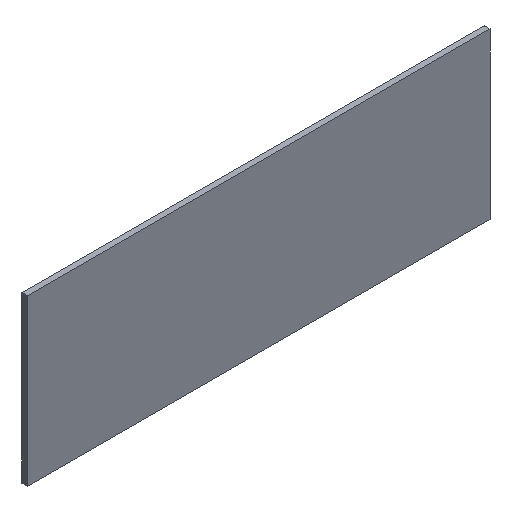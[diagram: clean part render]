
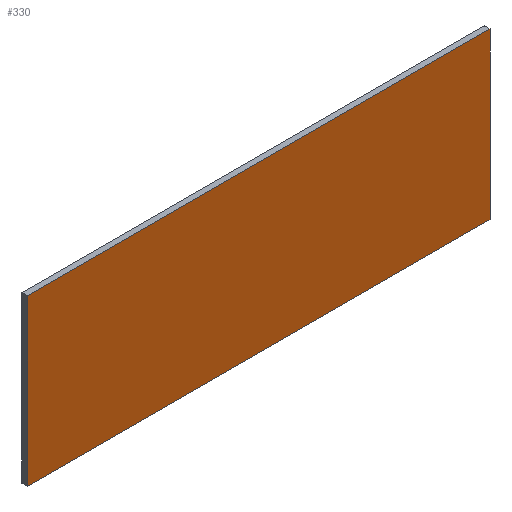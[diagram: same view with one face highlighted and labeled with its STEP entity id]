
A CAD part, isometric view. The second image highlights one B-rep face of the part: STEP entity #330.
In plain terms, the highlighted planar face has unit normal (0, -1, 0).
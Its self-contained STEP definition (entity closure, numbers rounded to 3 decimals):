
#43 = PLANE('',#44);
#44 = AXIS2_PLACEMENT_3D('',#45,#46,#47);
#45 = CARTESIAN_POINT('',(-28.,12.5,-10.));
#46 = DIRECTION('',(1.,0.,0.));
#47 = DIRECTION('',(0.,0.,1.));
#69 = PLANE('',#70);
#70 = AXIS2_PLACEMENT_3D('',#71,#72,#73);
#71 = CARTESIAN_POINT('',(-28.,12.5,10.));
#72 = DIRECTION('',(0.,0.,1.));
#73 = DIRECTION('',(1.,0.,0.));
#95 = PLANE('',#96);
#96 = AXIS2_PLACEMENT_3D('',#97,#98,#99);
#97 = CARTESIAN_POINT('',(28.,12.5,-10.));
#98 = DIRECTION('',(1.,0.,0.));
#99 = DIRECTION('',(0.,0.,1.));
#119 = PLANE('',#120);
#120 = AXIS2_PLACEMENT_3D('',#121,#122,#123);
#121 = CARTESIAN_POINT('',(-28.,12.5,-10.));
#122 = DIRECTION('',(0.,0.,1.));
#123 = DIRECTION('',(1.,0.,0.));
#134 = VERTEX_POINT('',#135);
#135 = CARTESIAN_POINT('',(-28.,12.5,10.));
#156 = EDGE_CURVE('',#157,#134,#159,.T.);
#157 = VERTEX_POINT('',#158);
#158 = CARTESIAN_POINT('',(-28.,12.5,-10.));
#159 = SURFACE_CURVE('',#160,(#164,#171),.PCURVE_S1.);
#160 = LINE('',#161,#162);
#161 = CARTESIAN_POINT('',(-28.,12.5,-10.));
#162 = VECTOR('',#163,1.);
#163 = DIRECTION('',(0.,0.,1.));
#164 = PCURVE('',#43,#165);
#165 = DEFINITIONAL_REPRESENTATION('',(#166),#170);
#166 = LINE('',#167,#168);
#167 = CARTESIAN_POINT('',(0.,0.));
#168 = VECTOR('',#169,1.);
#169 = DIRECTION('',(1.,0.));
#170 = ( GEOMETRIC_REPRESENTATION_CONTEXT(2) 
PARAMETRIC_REPRESENTATION_CONTEXT() REPRESENTATION_CONTEXT('2D SPACE',''
  ) );
#171 = PCURVE('',#172,#177);
#172 = PLANE('',#173);
#173 = AXIS2_PLACEMENT_3D('',#174,#175,#176);
#174 = CARTESIAN_POINT('',(-28.,12.5,-10.));
#175 = DIRECTION('',(0.,1.,0.));
#176 = DIRECTION('',(0.,0.,1.));
#177 = DEFINITIONAL_REPRESENTATION('',(#178),#182);
#178 = LINE('',#179,#180);
#179 = CARTESIAN_POINT('',(0.,0.));
#180 = VECTOR('',#181,1.);
#181 = DIRECTION('',(1.,0.));
#182 = ( GEOMETRIC_REPRESENTATION_CONTEXT(2) 
PARAMETRIC_REPRESENTATION_CONTEXT() REPRESENTATION_CONTEXT('2D SPACE',''
  ) );
#210 = EDGE_CURVE('',#157,#211,#213,.T.);
#211 = VERTEX_POINT('',#212);
#212 = CARTESIAN_POINT('',(28.,12.5,-10.));
#213 = SURFACE_CURVE('',#214,(#218,#225),.PCURVE_S1.);
#214 = LINE('',#215,#216);
#215 = CARTESIAN_POINT('',(-28.,12.5,-10.));
#216 = VECTOR('',#217,1.);
#217 = DIRECTION('',(1.,0.,0.));
#218 = PCURVE('',#119,#219);
#219 = DEFINITIONAL_REPRESENTATION('',(#220),#224);
#220 = LINE('',#221,#222);
#221 = CARTESIAN_POINT('',(0.,0.));
#222 = VECTOR('',#223,1.);
#223 = DIRECTION('',(1.,0.));
#224 = ( GEOMETRIC_REPRESENTATION_CONTEXT(2) 
PARAMETRIC_REPRESENTATION_CONTEXT() REPRESENTATION_CONTEXT('2D SPACE',''
  ) );
#225 = PCURVE('',#172,#226);
#226 = DEFINITIONAL_REPRESENTATION('',(#227),#231);
#227 = LINE('',#228,#229);
#228 = CARTESIAN_POINT('',(0.,0.));
#229 = VECTOR('',#230,1.);
#230 = DIRECTION('',(0.,1.));
#231 = ( GEOMETRIC_REPRESENTATION_CONTEXT(2) 
PARAMETRIC_REPRESENTATION_CONTEXT() REPRESENTATION_CONTEXT('2D SPACE',''
  ) );
#259 = VERTEX_POINT('',#260);
#260 = CARTESIAN_POINT('',(28.,12.5,10.));
#281 = EDGE_CURVE('',#211,#259,#282,.T.);
#282 = SURFACE_CURVE('',#283,(#287,#294),.PCURVE_S1.);
#283 = LINE('',#284,#285);
#284 = CARTESIAN_POINT('',(28.,12.5,-10.));
#285 = VECTOR('',#286,1.);
#286 = DIRECTION('',(0.,0.,1.));
#287 = PCURVE('',#95,#288);
#288 = DEFINITIONAL_REPRESENTATION('',(#289),#293);
#289 = LINE('',#290,#291);
#290 = CARTESIAN_POINT('',(0.,0.));
#291 = VECTOR('',#292,1.);
#292 = DIRECTION('',(1.,0.));
#293 = ( GEOMETRIC_REPRESENTATION_CONTEXT(2) 
PARAMETRIC_REPRESENTATION_CONTEXT() REPRESENTATION_CONTEXT('2D SPACE',''
  ) );
#294 = PCURVE('',#172,#295);
#295 = DEFINITIONAL_REPRESENTATION('',(#296),#300);
#296 = LINE('',#297,#298);
#297 = CARTESIAN_POINT('',(0.,56.));
#298 = VECTOR('',#299,1.);
#299 = DIRECTION('',(1.,0.));
#300 = ( GEOMETRIC_REPRESENTATION_CONTEXT(2) 
PARAMETRIC_REPRESENTATION_CONTEXT() REPRESENTATION_CONTEXT('2D SPACE',''
  ) );
#308 = EDGE_CURVE('',#134,#259,#309,.T.);
#309 = SURFACE_CURVE('',#310,(#314,#321),.PCURVE_S1.);
#310 = LINE('',#311,#312);
#311 = CARTESIAN_POINT('',(-28.,12.5,10.));
#312 = VECTOR('',#313,1.);
#313 = DIRECTION('',(1.,0.,0.));
#314 = PCURVE('',#69,#315);
#315 = DEFINITIONAL_REPRESENTATION('',(#316),#320);
#316 = LINE('',#317,#318);
#317 = CARTESIAN_POINT('',(0.,0.));
#318 = VECTOR('',#319,1.);
#319 = DIRECTION('',(1.,0.));
#320 = ( GEOMETRIC_REPRESENTATION_CONTEXT(2) 
PARAMETRIC_REPRESENTATION_CONTEXT() REPRESENTATION_CONTEXT('2D SPACE',''
  ) );
#321 = PCURVE('',#172,#322);
#322 = DEFINITIONAL_REPRESENTATION('',(#323),#327);
#323 = LINE('',#324,#325);
#324 = CARTESIAN_POINT('',(20.,0.));
#325 = VECTOR('',#326,1.);
#326 = DIRECTION('',(0.,1.));
#327 = ( GEOMETRIC_REPRESENTATION_CONTEXT(2) 
PARAMETRIC_REPRESENTATION_CONTEXT() REPRESENTATION_CONTEXT('2D SPACE',''
  ) );
#330 = ADVANCED_FACE('',(#331),#172,.F.);
#331 = FACE_BOUND('',#332,.F.);
#332 = EDGE_LOOP('',(#333,#334,#335,#336));
#333 = ORIENTED_EDGE('',*,*,#210,.F.);
#334 = ORIENTED_EDGE('',*,*,#156,.T.);
#335 = ORIENTED_EDGE('',*,*,#308,.T.);
#336 = ORIENTED_EDGE('',*,*,#281,.F.);
